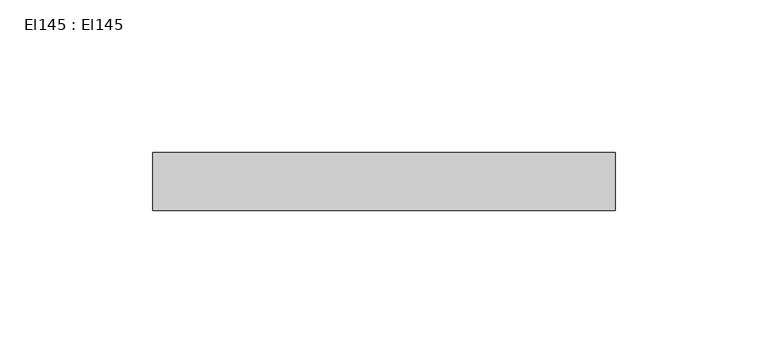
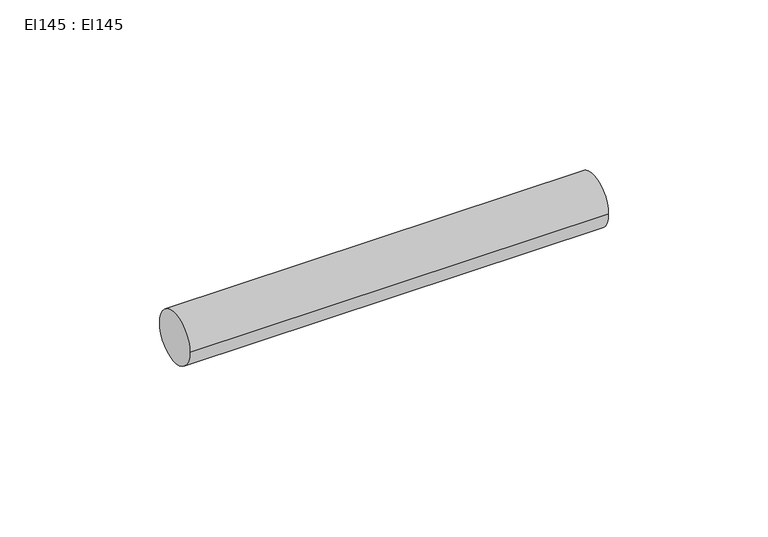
"""IFC4 building model written with IfcOpenShell, lengths in millimetres: cable carrier segment geometry, El145 : El145."""

from ifc_helpers import new_model, si_unit, point, frame, frame_2d, origin, place, context, project, spatial, circle_curve, trimmed, segment, composite_curve, outline, extrude, source, transform, mapped, element, save


def el145_el145_10af715c(model_context):
    return source(origin(), model_context, "Body", "SweptSolid", [
        extrude(outline(composite_curve([segment(trimmed(circle_curve(frame_2d((13172.1, 1200.0)), 9.5), [point((13162.6, 1200.0))], [point((13181.6, 1200.0))], False, "CARTESIAN"), True, "CONTINUOUS"), segment(trimmed(circle_curve(frame_2d((13172.1, 1200.0)), 9.5), [point((13181.6, 1200.0))], [point((13162.6, 1200.0))], False, "CARTESIAN"), True, "CONTINUOUS")], self_intersect=False)), frame((25049.1505, 0.0, 0.0), z_axis=(1.0, 0.0, 0.0), x_axis=(0.0, 1.0, 0.0)), (0.0, 0.0, 1.0), 151.499),
    ])


if __name__ == "__main__":
    model = new_model("IFC4")
    model_context = context("Model", 3, world=origin())
    ifc_project = project(units=[si_unit("LENGTHUNIT", "METRE", prefix="MILLI")], contexts=[model_context])
    site = spatial("IfcSite", under=ifc_project)
    building = spatial("IfcBuilding", under=site)
    placement = place(None, origin())
    el145_el145_shape = el145_el145_10af715c(model_context)
    element("IfcCableCarrierSegment", 1, ObjectType="El145 : El145", at=placement, inside=building, context=model_context, shape_type="MappedRepresentation", body=[
        mapped(el145_el145_shape, transform((0.0, 0.0, 0.0), x_axis=(1.0, 0.0, 0.0), y_axis=(0.0, 1.0, 0.0), z_axis=(0.0, 0.0, 1.0))),
    ])
    save(model, "model.ifc")
